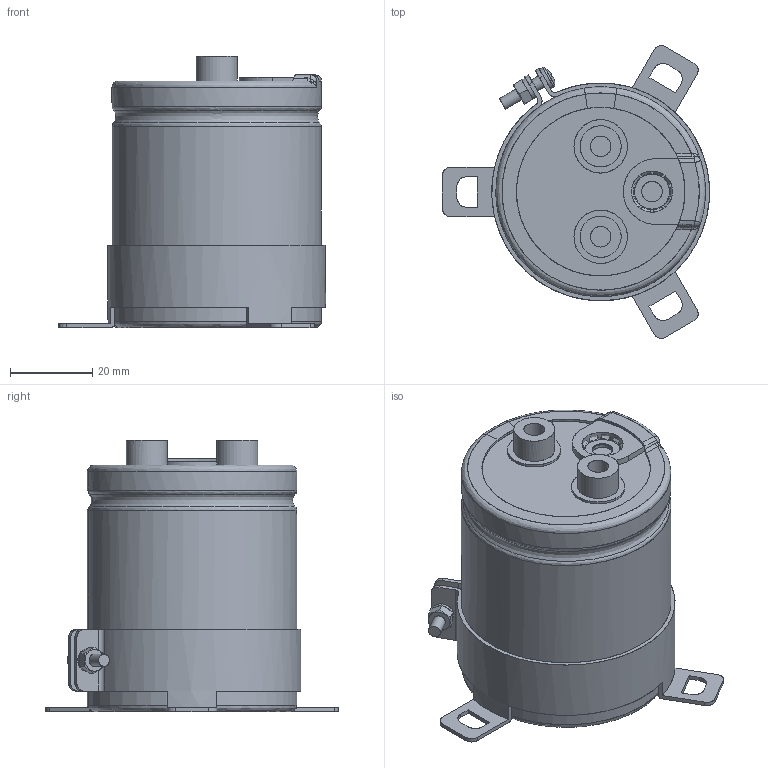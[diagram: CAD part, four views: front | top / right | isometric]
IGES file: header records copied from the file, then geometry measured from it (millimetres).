
Start section: JAMA-IS VERSION  1.0
Bounding box: 65 x 71.22 x 66 mm (x, y, z)
Surface area: 43372.2 mm2 (no closed solid volume)
Topology: 0 solids, 0 shells, 298 faces, 4625 edges, 4595 vertices
Faces by surface type: bspline 298
